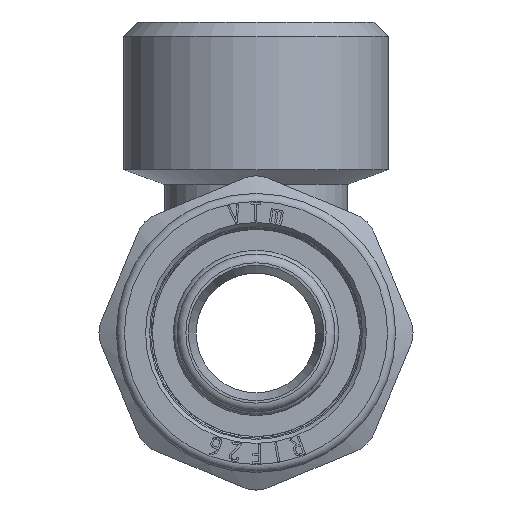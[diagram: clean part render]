
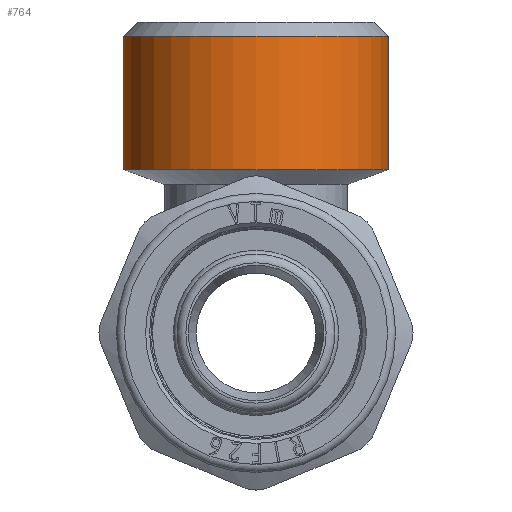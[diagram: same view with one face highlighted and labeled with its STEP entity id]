
A CAD part, front view. The second image highlights one B-rep face of the part: STEP entity #764.
In plain terms, the highlighted cylindrical face has radius 16.625 mm (diameter 33.249 mm), a full revolution.
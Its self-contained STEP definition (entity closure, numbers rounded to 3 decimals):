
#764=ADVANCED_FACE('',(#5846,#5848),#5850,.T.);
#5846=FACE_OUTER_BOUND('',#5847,.T.);
#5847=EDGE_LOOP('',(#11178));
#5848=FACE_OUTER_BOUND('',#5849,.T.);
#5849=EDGE_LOOP('',(#11179));
#5850=CYLINDRICAL_SURFACE('',#5851,16.625);
#5851=AXIS2_PLACEMENT_3D('',#5852,#5853,#5854);
#5852=CARTESIAN_POINT('',(0.,0.,20.5));
#5853=DIRECTION('',(0.,0.,1.));
#5854=DIRECTION('',(-1.,0.,0.));
#11178=ORIENTED_EDGE('',*,*,#13297,.F.);
#11179=ORIENTED_EDGE('',*,*,#13222,.F.);
#13222=EDGE_CURVE('',#16523,#16523,#16524,.F.);
#13297=EDGE_CURVE('',#16637,#16637,#16638,.T.);
#16523=VERTEX_POINT('',#28007);
#16524=CIRCLE('',#28008,16.625);
#16637=VERTEX_POINT('',#28274);
#16638=CIRCLE('',#28275,16.625);
#28007=CARTESIAN_POINT('',(-16.625,0.,20.5));
#28008=AXIS2_PLACEMENT_3D('',#28009,#28010,#28011);
#28009=CARTESIAN_POINT('',(0.,0.,20.5));
#28010=DIRECTION('',(0.,0.,1.));
#28011=DIRECTION('',(-1.,0.,0.));
#28274=CARTESIAN_POINT('',(-16.625,0.,37.2));
#28275=AXIS2_PLACEMENT_3D('',#28276,#28277,#28278);
#28276=CARTESIAN_POINT('',(0.,0.,37.2));
#28277=DIRECTION('',(0.,0.,1.));
#28278=DIRECTION('',(-1.,0.,0.));
